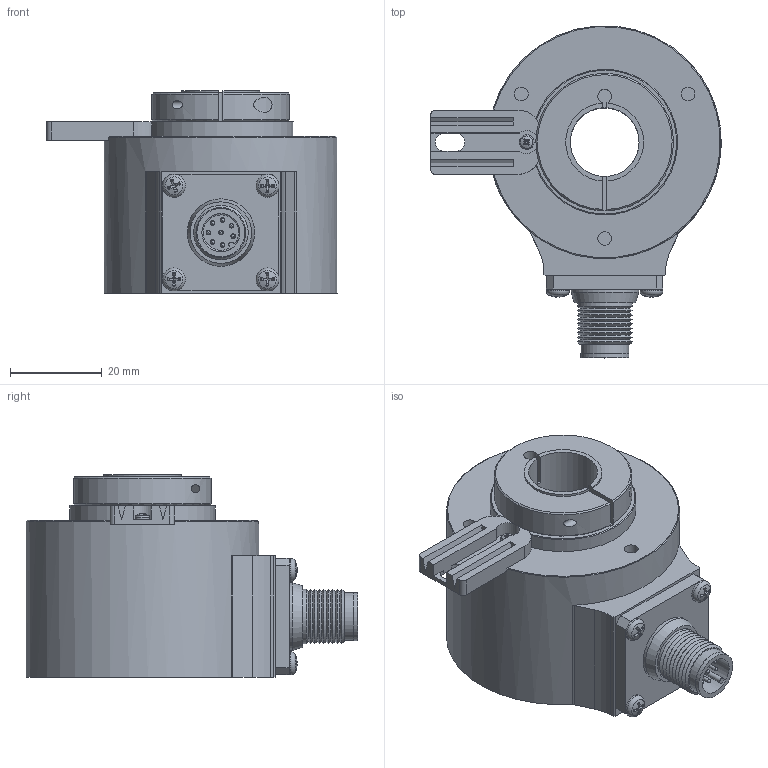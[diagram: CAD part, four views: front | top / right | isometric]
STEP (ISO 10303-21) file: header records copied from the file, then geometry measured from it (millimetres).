
FILE_DESCRIPTION((''),'2;1');
FILE_NAME('C:\TurckZip\T8-5020-M12-800010-4I.stp','2010-04-29T10:48:07',('IKOROL'),(''),'Autodesk Inventor 2009','Autodesk Inventor 2009','');
FILE_SCHEMA(('CONFIG_CONTROL_DESIGN'));
Length unit declared in the file: millimetre
Products named in the file (1): Part11
Bounding box: 63.3 x 72.35 x 44.2 mm (x, y, z)
Volume: 75482.5 mm3; surface area: 16956.1 mm2
Topology: 1 solids, 8 shells, 443 faces, 1140 edges, 729 vertices
Faces by surface type: plane 166, cone 102, cylinder 94, bspline 35, torus 33, sphere 13
Full cylindrical faces by diameter (mm): 0.8 x16, 1.4 x8, 1.411 x1, 1.6 x1, 1.8 x1, 2 x1, 2.224 x4, 2.5 x4, 2.7 x1, 3 x3, 3.2 x2, 4 x4, 4.368 x1, 4.7 x1, 8 x1, 8.3 x1, 9 x1, 9.6 x1, 9.9 x1, 10.4 x1, 10.5 x1, 11.9 x1, 14.7 x1, 15 x1, 50.8 x1
Entity records: 13944 total; most frequent: CARTESIAN_POINT 4283, DIRECTION 1914, ORIENTED_EDGE 1764, EDGE_CURVE 882, AXIS2_PLACEMENT_3D 820, EDGE_LOOP 667, VERTEX_POINT 647, FACE_OUTER_BOUND 442
